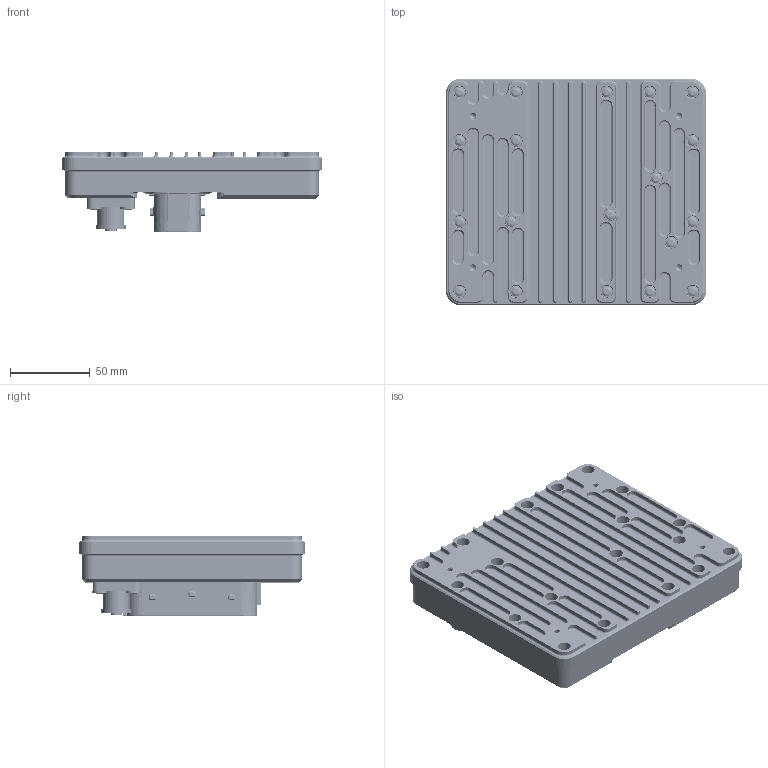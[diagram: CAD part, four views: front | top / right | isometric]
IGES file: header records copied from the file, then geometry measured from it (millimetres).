
Start section: START RECORD GO HERE.
Global section: file name: PDUX2B Assembly.igs; native system: DASSAULT SYSTEMES CATIA V5 R19 - www.3ds.com; preprocessor: CATIA Version 5 Release 19 SP 9 ; author: mark.labudek; organization: MAPRECISION; date: 20251121.151819; units: millimetre
Bounding box: 163.5 x 142.25 x 50.45 mm (x, y, z)
Surface area: 139775.2 mm2 (no closed solid volume)
Topology: 0 solids, 0 shells, 4398 faces, 21472 edges, 21443 vertices
Faces by surface type: revolution 2354, plane 2031, bspline 13
